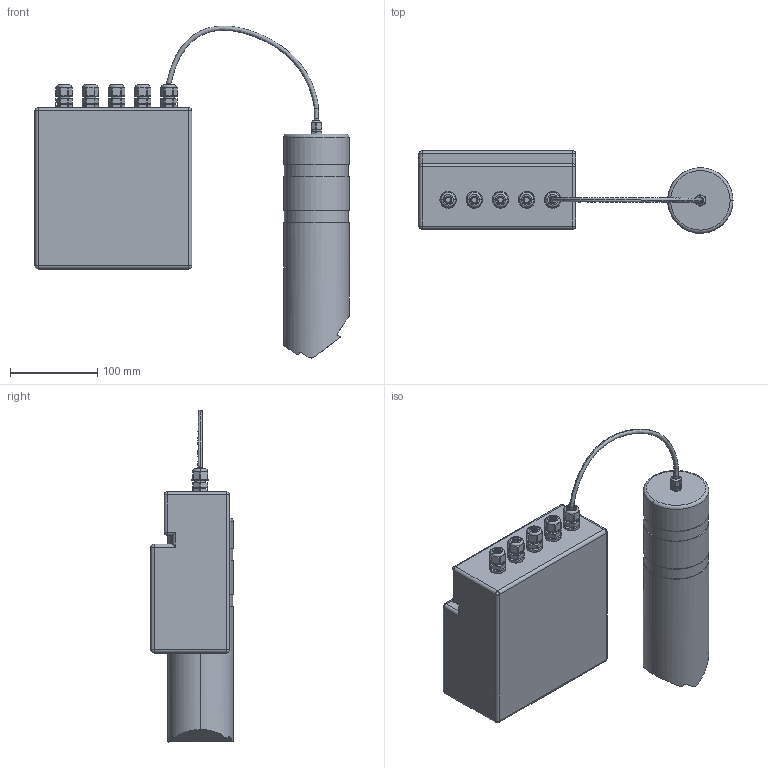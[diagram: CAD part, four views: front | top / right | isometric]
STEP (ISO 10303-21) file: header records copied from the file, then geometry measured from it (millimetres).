
FILE_DESCRIPTION((''),'2;1');
FILE_NAME('ASM0002_ASM','2025-12-30T10:53:50',('28740194'),(''),'CREO PARAMETRIC BY PTC INC, 2024063','CREO PARAMETRIC BY PTC INC, 2024063','');
FILE_SCHEMA(('CONFIG_CONTROL_DESIGN'));
Length unit declared in the file: millimetre
Products named in the file (14): KDF110000; EV214_27005336_DUMMY_MIR; EV214_27005336_02_MIR; EV214_27005336_03_MIR; EV214_27005336_04_MIR; EV214_27005336_06_MIR; EV214_27005336_07_MIR; ASM0003__ASM; KDF1100_ASM; 0; KDF1300; 1572_08_035_2_5; KDF1300_ASM; ASM0002_ASM
Assembly tree (17 placements, depth 4):
  ASM0002_ASM
    KDF1100_ASM
      KDF110000
      ASM0003__ASM  x5
        EV214_27005336_DUMMY_MIR
        EV214_27005336_02_MIR
        EV214_27005336_03_MIR
        EV214_27005336_04_MIR
        EV214_27005336_06_MIR
        EV214_27005336_07_MIR
    0
    KDF1300_ASM
      KDF1300
      1572_08_035_2_5
Bounding box: 360.45 x 94.64 x 381.04 mm (x, y, z)
Volume: 3917677.8 mm3; surface area: 236002 mm2
Topology: 29 solids, 51 shells, 1656 faces, 4480 edges, 2970 vertices
Faces by surface type: plane 1124, cylinder 407, cone 65, torus 42, sphere 12, bspline 6
Entity records: 23695 total; most frequent: CARTESIAN_POINT 5162, DIRECTION 3832, ORIENTED_EDGE 3772, EDGE_CURVE 1896, VECTOR 1366, LINE 1366, VERTEX_POINT 1242, AXIS2_PLACEMENT_3D 1233
